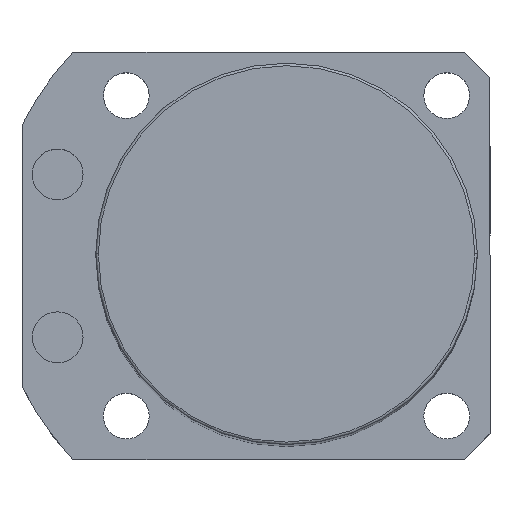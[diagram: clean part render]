
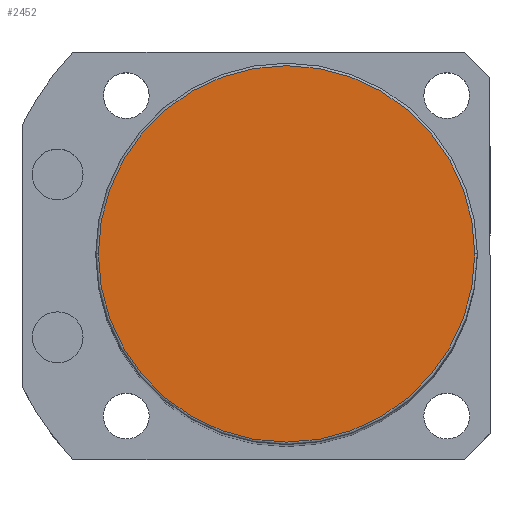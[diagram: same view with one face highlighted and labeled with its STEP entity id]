
A CAD part, top view. The second image highlights one B-rep face of the part: STEP entity #2452.
In plain terms, the highlighted planar face has unit normal (0, 0, 1).
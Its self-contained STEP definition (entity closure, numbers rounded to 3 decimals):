
#267 = EDGE_LOOP ( 'NONE', ( #4153, #2624 ) ) ;
#477 = CARTESIAN_POINT ( 'NONE',  ( 37., 0., 235.5 ) ) ;
#564 = DIRECTION ( 'NONE',  ( 1., 0., 0. ) ) ;
#890 = VERTEX_POINT ( 'NONE', #477 ) ;
#1830 = CARTESIAN_POINT ( 'NONE',  ( 0., 0., 235.5 ) ) ;
#1836 = CARTESIAN_POINT ( 'NONE',  ( 0., 0., 235.5 ) ) ;
#2348 = PLANE ( 'NONE',  #4879 ) ;
#2452 = ADVANCED_FACE ( 'NONE', ( #6491 ), #2348, .T. ) ;
#2624 = ORIENTED_EDGE ( 'NONE', *, *, #3714, .T. ) ;
#2804 = AXIS2_PLACEMENT_3D ( 'NONE', #1836, #6368, #5925 ) ;
#3434 = DIRECTION ( 'NONE',  ( 0., 0., 1. ) ) ;
#3529 = EDGE_CURVE ( 'NONE', #890, #4082, #5695, .T. ) ;
#3610 = CARTESIAN_POINT ( 'NONE',  ( 0., 0., 235.5 ) ) ;
#3714 = EDGE_CURVE ( 'NONE', #4082, #890, #4196, .T. ) ;
#4066 = CARTESIAN_POINT ( 'NONE',  ( -37., 0., 235.5 ) ) ;
#4067 = DIRECTION ( 'NONE',  ( 0., 0., 1. ) ) ;
#4082 = VERTEX_POINT ( 'NONE', #4066 ) ;
#4153 = ORIENTED_EDGE ( 'NONE', *, *, #3529, .T. ) ;
#4196 = CIRCLE ( 'NONE', #5424, 37. ) ;
#4879 = AXIS2_PLACEMENT_3D ( 'NONE', #1830, #3434, #5770 ) ;
#5424 = AXIS2_PLACEMENT_3D ( 'NONE', #3610, #4067, #564 ) ;
#5695 = CIRCLE ( 'NONE', #2804, 37. ) ;
#5770 = DIRECTION ( 'NONE',  ( 1., 0., 0. ) ) ;
#5925 = DIRECTION ( 'NONE',  ( 1., 0., 0. ) ) ;
#6368 = DIRECTION ( 'NONE',  ( 0., 0., 1. ) ) ;
#6491 = FACE_OUTER_BOUND ( 'NONE', #267, .T. ) ;
